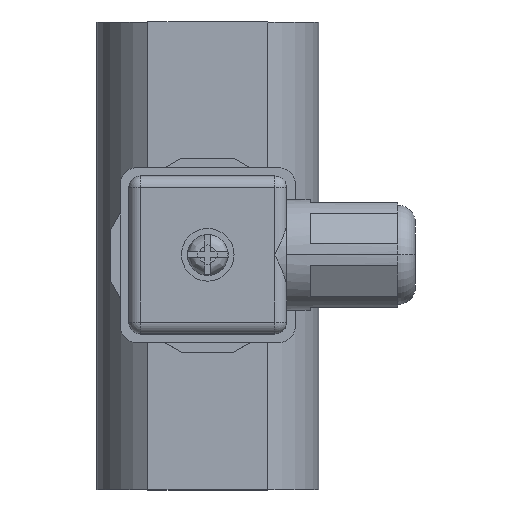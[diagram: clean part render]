
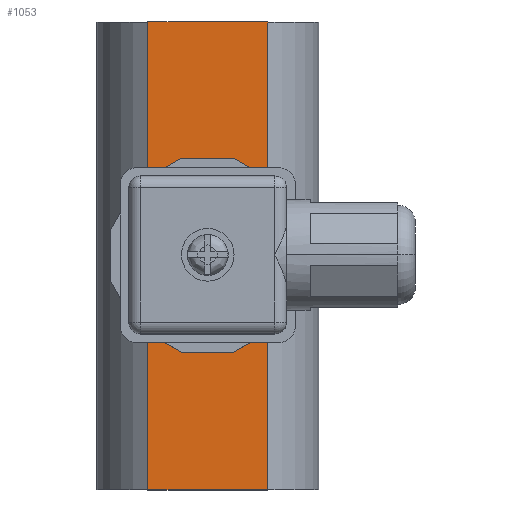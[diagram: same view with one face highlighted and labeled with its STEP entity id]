
A CAD part, top view. The second image highlights one B-rep face of the part: STEP entity #1053.
In plain terms, the highlighted planar face has unit normal (0, 0, 1).
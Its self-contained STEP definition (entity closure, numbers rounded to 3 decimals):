
#1053=ADVANCED_FACE('',(#1546,#1547),#1312,.F.);
#1312=PLANE('',#7296);
#1489=CIRCLE('',#7295,8.);
#1546=FACE_BOUND('',#1930,.T.);
#1547=FACE_BOUND('',#1931,.T.);
#1930=EDGE_LOOP('',(#3815));
#1931=EDGE_LOOP('',(#3816,#3817,#3818,#3819));
#3815=ORIENTED_EDGE('',*,*,#5490,.T.);
#3816=ORIENTED_EDGE('',*,*,#5491,.T.);
#3817=ORIENTED_EDGE('',*,*,#5467,.F.);
#3818=ORIENTED_EDGE('',*,*,#5492,.T.);
#3819=ORIENTED_EDGE('',*,*,#5481,.T.);
#4510=VERTEX_POINT('',#13293);
#4511=VERTEX_POINT('',#13295);
#4522=VERTEX_POINT('',#13839);
#4524=VERTEX_POINT('',#13843);
#4532=VERTEX_POINT('',#13875);
#5467=EDGE_CURVE('',#4510,#4511,#6146,.T.);
#5481=EDGE_CURVE('',#4522,#4524,#6149,.T.);
#5490=EDGE_CURVE('',#4532,#4532,#1489,.T.);
#5491=EDGE_CURVE('',#4524,#4511,#6151,.T.);
#5492=EDGE_CURVE('',#4510,#4522,#6152,.T.);
#6146=LINE('',#13294,#6781);
#6149=LINE('',#13844,#6784);
#6151=LINE('',#13876,#6786);
#6152=LINE('',#13877,#6787);
#6781=VECTOR('',#8913,1.);
#6784=VECTOR('',#8934,1.);
#6786=VECTOR('',#8948,1.);
#6787=VECTOR('',#8949,1.);
#7295=AXIS2_PLACEMENT_3D('',#13874,#8946,#8947);
#7296=AXIS2_PLACEMENT_3D('',#13878,#8950,#8951);
#8913=DIRECTION('',(-1.,0.,0.));
#8934=DIRECTION('',(-1.,0.,0.));
#8946=DIRECTION('',(0.,0.,-1.));
#8947=DIRECTION('',(-1.,0.,0.));
#8948=DIRECTION('',(0.,-1.,0.));
#8949=DIRECTION('',(0.,1.,0.));
#8950=DIRECTION('',(0.,0.,-1.));
#8951=DIRECTION('',(0.,-1.,0.));
#13293=CARTESIAN_POINT('',(35.747,-3.6,-94.));
#13294=CARTESIAN_POINT('',(25.5,-3.6,-94.));
#13295=CARTESIAN_POINT('',(15.253,-3.6,-94.));
#13839=CARTESIAN_POINT('',(35.747,76.4,-94.));
#13843=CARTESIAN_POINT('',(15.253,76.4,-94.));
#13844=CARTESIAN_POINT('',(25.5,76.4,-94.));
#13874=CARTESIAN_POINT('',(25.5,36.4,-94.));
#13875=CARTESIAN_POINT('',(17.5,36.4,-94.));
#13876=CARTESIAN_POINT('',(15.253,80.4,-94.));
#13877=CARTESIAN_POINT('',(35.747,80.4,-94.));
#13878=CARTESIAN_POINT('',(25.5,76.4,-94.));
